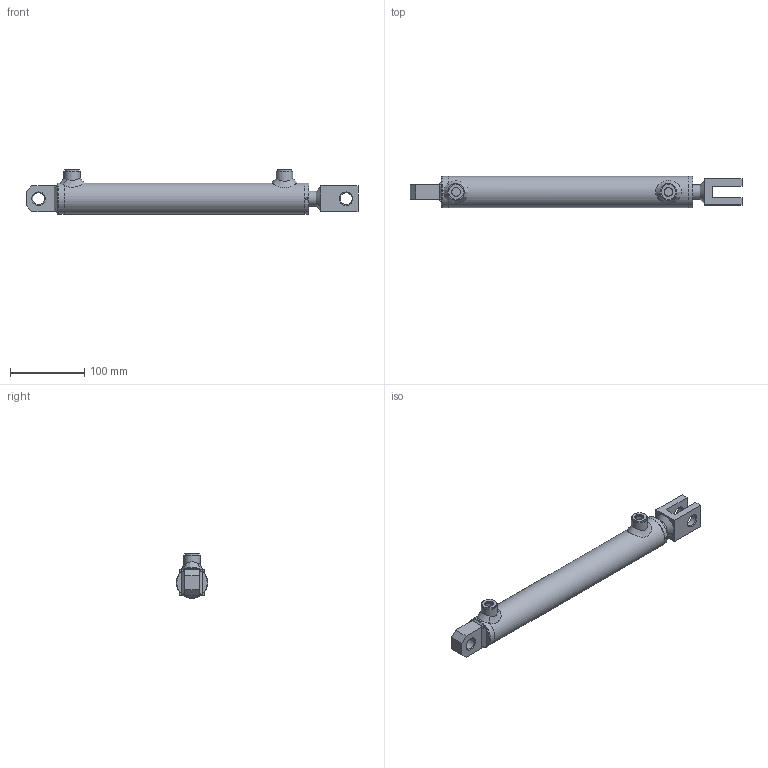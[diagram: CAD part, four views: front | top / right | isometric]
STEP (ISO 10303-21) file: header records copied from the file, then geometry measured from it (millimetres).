
FILE_DESCRIPTION( ( 'Unknown' ), '1' );
FILE_NAME( 'E:/LIBRERIA_3d/CILINDRI/HM5/hm5032200250.stp', 'Unknown', ( 'Unknown' ), ( 'Unknown' ), 'PSStep 17.0.49', 'Unknown', ' ' );
FILE_SCHEMA( ( 'AUTOMOTIVE_DESIGN { 1 0 10303 214 1 1 1 1 }' ) );
Length unit declared in the file: millimetre
Products named in the file (35): STFR032050250-oa4; Saldatura d'angolo 1-oa2; MAT_PRIMA_TUBO_FT04203200-oa3; CBSC220400; CG04203220; CT00032015; HM0032200250; Saldatura con preparazione 1-oa0; Saldatura d'angolo 1-oa1; CF00032042; CBS0400000; CDA0001415; APG0400000; SBL0200320250; Assem1; CSCS004010; CFS0000016; COF1600000; Saldatura con preparazione 1-oa5; Saldatura d'angolo 1-oa6; Saldatura d'angolo 2-oa7; Saldatura d'angolo 3-oa8
Assembly tree (22 placements, depth 4):
  Saldatura d'angolo 1-oa2
  Saldatura d'angolo 1-oa2
  Saldatura d'angolo 1-oa1
  Saldatura d'angolo 1-oa1
  Assem1
    CSCS004010  x2
    CFS0000016
    COF1600000
    Saldatura con preparazione 1-oa5
    Saldatura con preparazione 1-oa5
    HM0032200250
      Saldatura con preparazione 1-oa0
      Saldatura con preparazione 1-oa0
      CF00032042
      CBS0400000
      CDA0001415
      APG0400000  x2
      SBL0200320250
      CG04203220
        CG04203220
      CT00032015
        CT00032015
      STFR032050250-oa4
        MAT_PRIMA_TUBO_FT04203200-oa3
        CBSC220400
Bounding box: 447 x 42 x 60 mm (x, y, z)
Volume: 412496.2 mm3; surface area: 163633.9 mm2
Topology: 32 solids, 32 shells, 329 faces, 723 edges, 465 vertices
Faces by surface type: plane 118, cylinder 69, cone 58, bspline 52, torus 32
Full cylindrical faces by diameter (mm): 3 x2, 4 x2, 4.25 x3, 5 x2, 11.445 x2, 12 x2, 13.1 x2, 14 x2, 15 x3, 16.2 x3, 19.5 x1, 20 x10, 22 x4, 23 x1, 24 x1, 28 x3, 28.3 x1, 28.6 x1, 31.4 x2, 31.9 x1, 32 x1, 32.3 x1, 32.5 x1, 32.6 x1, 33 x1, 34 x3, 34.376 x1, 36 x1, 42 x5
Entity records: 13762 total; most frequent: CARTESIAN_POINT 5403, DIRECTION 1124, ORIENTED_EDGE 980, EDGE_LOOP 506, AXIS2_PLACEMENT_3D 502, EDGE_CURVE 490, FACE_OUTER_BOUND 414, VERTEX_POINT 393
